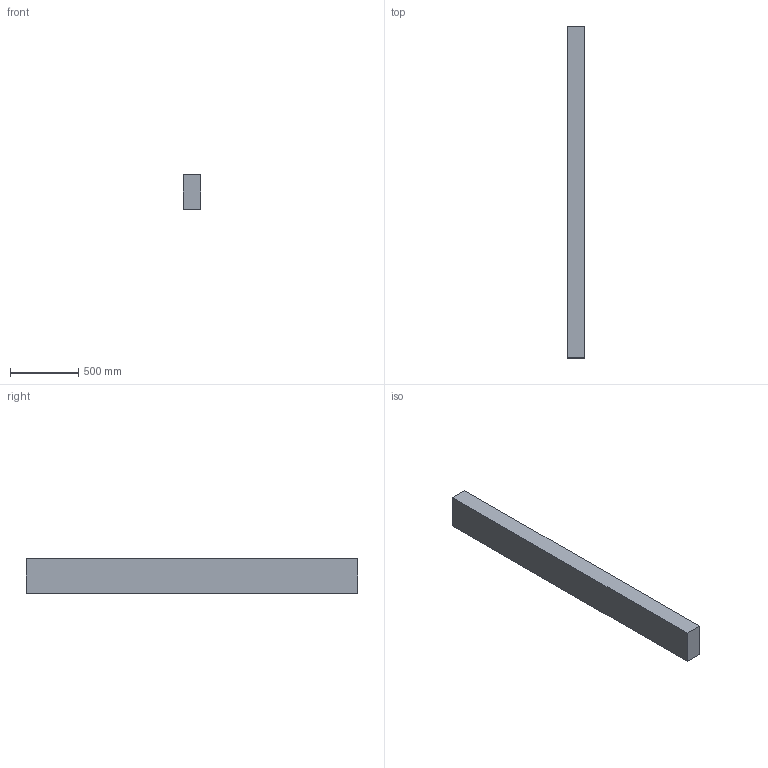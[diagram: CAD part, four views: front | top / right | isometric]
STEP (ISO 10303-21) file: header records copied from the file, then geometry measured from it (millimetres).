
FILE_DESCRIPTION(/* description */ (''),/* implementation_level */ '2;1');
FILE_NAME(/* name */ '5x10x96',/* time_stamp */ '2024-09-20T11:46:39-05:00',/* author */ (''),/* organization */ (''),/* preprocessor_version */ 'ST-DEVELOPER v19.2',/* originating_system */ 'Rhino 8.5',/* authorisation */ '');
FILE_SCHEMA (('CONFIG_CONTROL_DESIGN'));
Length unit declared in the file: inch
Products named in the file (1): Document
Bounding box: 127 x 2438.4 x 254 mm (x, y, z)
Volume: 78657907.2 mm3; surface area: 1922576.8 mm2
Topology: 1 solids, 1 shells, 6 faces, 12 edges, 8 vertices
Faces by surface type: plane 6
Entity records: 226 total; most frequent: CARTESIAN_POINT 40, ORIENTED_EDGE 24, EDGE_CURVE 12, B_SPLINE_CURVE_WITH_KNOTS 12, DIRECTION 10, VERTEX_POINT 8, AXIS2_PLACEMENT_3D 8, ORGANIZATION 7
